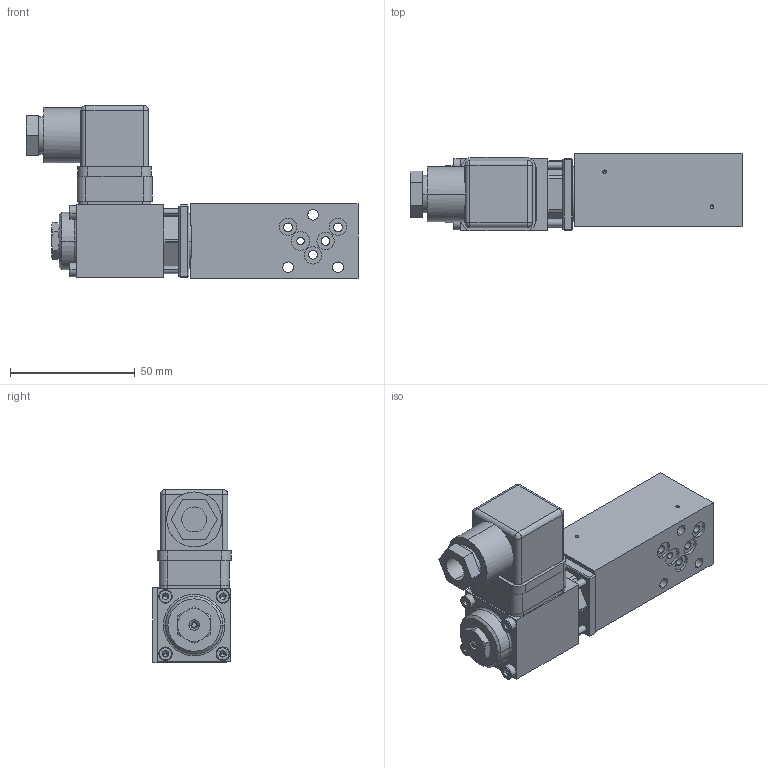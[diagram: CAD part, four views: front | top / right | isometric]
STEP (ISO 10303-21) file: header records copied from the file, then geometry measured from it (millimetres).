
FILE_DESCRIPTION (( 'STEP AP214' ), '1' );
FILE_NAME ('D.PSA03-A.STEP', '2017-04-19T12:48:55', ( '' ), ( '' ), 'SwSTEP 2.0', 'SolidWorks 2016', '' );
FILE_SCHEMA (( 'AUTOMOTIVE_DESIGN' ));
Length unit declared in the file: millimetre
Products named in the file (1): D.PSA03-A
Bounding box: 132.95 x 31.25 x 69.3 mm (x, y, z)
Volume: 128624 mm3; surface area: 36745 mm2
Topology: 11 solids, 14 shells, 741 faces, 1835 edges, 1163 vertices
Faces by surface type: plane 395, cylinder 237, cone 77, torus 22, bspline 6, sphere 4
Entity records: 30169 total; most frequent: CARTESIAN_POINT 4111, DIRECTION 3877, ORIENTED_EDGE 3622, EDGE_CURVE 1811, AXIS2_PLACEMENT_3D 1401, VERTEX_POINT 1163, VECTOR 1075, LINE 1075
